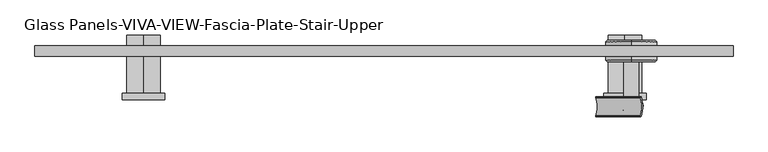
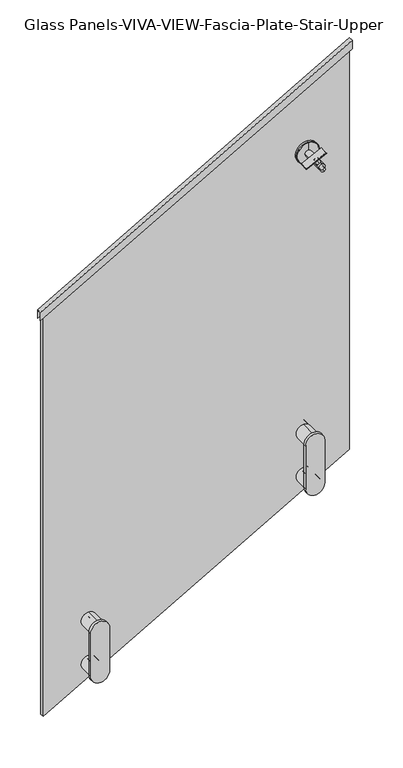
"""IFC4 building model written with IfcOpenShell, lengths in millimetres: railing geometry, Glass Panels-VIVA-VIEW-Fascia-Plate-Stair-Upper."""

import ifcopenshell
import ifcopenshell.guid

model = None  # the IFC model being written
_history = None  # IfcOwnerHistory: only IFC2X3 demands one
_inside = {}  # id of a spatial element -> (the spatial element, [elements in it])
_under = {}  # id of a project, library or spatial element -> (it, [spatial elements below it])
_declared = {}  # id of a project -> (the project, [libraries it declares])
_typed = {}  # id of a type object -> (the type object, [elements of that type])
_made_of = {}  # id of a material, layer set ... -> (it, [elements and type objects made of it])


def new_model(schema):
    """Start an empty IFC model of exactly this schema.

    Asked for "IFC4X3", IfcOpenShell would pick the latest addendum, in which some entities
    have other attributes; the version numbers below select the first issue.
    IFC2X3 requires an IfcOwnerHistory on every rooted entity: one is made here for all.
    """
    global model, _history
    if schema == "IFC4X3":
        model = ifcopenshell.file(schema_version=(4, 3, 0, 0))
    else:
        model = ifcopenshell.file(schema=schema)
    _inside.clear()
    _under.clear()
    _declared.clear()
    _typed.clear()
    _made_of.clear()
    _history = None
    if model.schema == "IFC2X3":
        org = make("IfcOrganization", Name="unknown")
        user = make(
            "IfcPersonAndOrganization",
            ThePerson=make("IfcPerson", FamilyName="unknown"),
            TheOrganization=org,
        )
        app = make(
            "IfcApplication",
            ApplicationDeveloper=org,
            Version="unknown",
            ApplicationFullName="unknown",
            ApplicationIdentifier="unknown",
        )
        _history = make(
            "IfcOwnerHistory",
            OwningUser=user,
            OwningApplication=app,
            ChangeAction="ADDED",
            CreationDate=0,
        )
    return model


def make(cls, **values):
    """One entity of the class cls with the attributes given. An attribute that is None is left unset."""
    return model.create_entity(
        cls, **{name: value for name, value in values.items() if value is not None}
    )


def rooted(cls, **values):
    """An entity with a GlobalId (a new one), such as an element, a storey or a relation."""
    return make(cls, GlobalId=ifcopenshell.guid.new(), OwnerHistory=_history, **values)


def si_unit(unit_type, name, prefix=None):
    """IfcSIUnit, for example si_unit("LENGTHUNIT", "METRE", prefix="MILLI")."""
    return make("IfcSIUnit", UnitType=unit_type, Prefix=prefix, Name=name)


def assignment(units):
    """IfcUnitAssignment: the units of a project."""
    return None if units is None else make("IfcUnitAssignment", Units=units)


def point(xyz):
    """IfcCartesianPoint."""
    return None if xyz is None else make("IfcCartesianPoint", Coordinates=xyz)


def direction(xyz):
    """IfcDirection."""
    return None if xyz is None else make("IfcDirection", DirectionRatios=xyz)


def frame(location, z_axis=None, x_axis=None):
    """IfcAxis2Placement3D, a coordinate frame: its origin and axes. An axis left out is left unset."""
    return make(
        "IfcAxis2Placement3D",
        Location=point(location),
        Axis=direction(z_axis),
        RefDirection=direction(x_axis),
    )


def frame_2d(location, x_axis=None):
    """IfcAxis2Placement2D, a coordinate frame in the plane: its origin and x axis."""
    return make(
        "IfcAxis2Placement2D", Location=point(location), RefDirection=direction(x_axis)
    )


def origin():
    """The frame at (0, 0, 0) with its axes left unset."""
    return frame((0.0, 0.0, 0.0))


def place(relative_to, where):
    """IfcLocalPlacement: puts the frame where relative to a parent placement (None: the world)."""
    return make(
        "IfcLocalPlacement", PlacementRelTo=relative_to, RelativePlacement=where
    )


def context(
    kind, dimensions, precision=None, world=None, true_north=None, identifier=None
):
    """IfcGeometricRepresentationContext, for example the 3D "Model" context."""
    return make(
        "IfcGeometricRepresentationContext",
        ContextIdentifier=identifier,
        ContextType=kind,
        CoordinateSpaceDimension=dimensions,
        Precision=precision,
        WorldCoordinateSystem=world,
        TrueNorth=true_north,
    )


def project(units=None, contexts=None):
    """IfcProject with its units and contexts."""
    return rooted(
        "IfcProject",
        Name="project",
        RepresentationContexts=contexts,
        UnitsInContext=assignment(units),
    )


def spatial(cls, under=None, at=None, **own):
    """A site, building, storey or space (cls), placed at a placement, below another one or the project."""
    s = rooted(cls, ObjectPlacement=at, **own)
    if under is not None:
        _under.setdefault(under.id(), (under, []))[1].append(s)
    return s


def polyline(points):
    """IfcPolyline through the points."""
    return make("IfcPolyline", Points=[point(p) for p in points])


def circle_curve(where, radius):
    """IfcCircle in the frame where."""
    return make("IfcCircle", Position=where, Radius=radius)


def trimmed(basis, trim1, trim2, sense, master):
    """IfcTrimmedCurve: the piece of a basis curve between two trims."""
    return make(
        "IfcTrimmedCurve",
        BasisCurve=basis,
        Trim1=trim1,
        Trim2=trim2,
        SenseAgreement=sense,
        MasterRepresentation=master,
    )


def segment(curve, same_sense, transition):
    """IfcCompositeCurveSegment."""
    return make(
        "IfcCompositeCurveSegment",
        Transition=transition,
        SameSense=same_sense,
        ParentCurve=curve,
    )


def composite_curve(segments, self_intersect=None):
    """IfcCompositeCurve: segments joined end to end."""
    return make("IfcCompositeCurve", Segments=segments, SelfIntersect=self_intersect)


def outline(outer, holes=None, kind="AREA"):
    """IfcArbitraryClosedProfileDef: a profile drawn as a closed curve; with holes, ...WithVoids."""
    if holes is None:
        return make("IfcArbitraryClosedProfileDef", ProfileType=kind, OuterCurve=outer)
    return make(
        "IfcArbitraryProfileDefWithVoids",
        ProfileType=kind,
        OuterCurve=outer,
        InnerCurves=holes,
    )


def extrude(swept, where, along, depth):
    """IfcExtrudedAreaSolid: the profile swept, set in the frame where, extruded along a direction by depth."""
    return make(
        "IfcExtrudedAreaSolid",
        SweptArea=swept,
        Position=where,
        ExtrudedDirection=direction(along),
        Depth=depth,
    )


def faces_of(points, faces, orient=None, outer=None):
    """IfcFace entities. A face is a list of loops; a loop is a list of indices into points, from 0.

    orient and outer hold one flag for each loop. By default every Orientation is true, the
    first loop of a face is its IfcFaceOuterBound and the others are IfcFaceBound.
    """
    made = []
    for i, loops in enumerate(faces):
        bounds = []
        for j, loop in enumerate(loops):
            is_outer = j == 0 if outer is None else outer[i][j]
            bounds.append(
                make(
                    "IfcFaceOuterBound" if is_outer else "IfcFaceBound",
                    Bound=make("IfcPolyLoop", Polygon=[points[k] for k in loop]),
                    Orientation=True if orient is None else orient[i][j],
                )
            )
        made.append(make("IfcFace", Bounds=bounds))
    return made


def faceted_brep(points, faces, orient=None, outer=None, voids=None):
    """IfcFacetedBrep: a solid bounded by flat faces; with voids (closed shells), ...WithVoids."""
    shared = [point(p) for p in points]
    hull = make("IfcClosedShell", CfsFaces=faces_of(shared, faces, orient, outer))
    if voids is None:
        return make("IfcFacetedBrep", Outer=hull)
    return make(
        "IfcFacetedBrepWithVoids",
        Outer=hull,
        Voids=[
            make(cls, CfsFaces=faces_of(shared, fs, o, b)) for cls, fs, o, b in voids
        ],
    )


def shape(context_of_items, identifier, shape_type, items):
    """IfcShapeRepresentation: the items that make up one representation, for example the "Body"."""
    return make(
        "IfcShapeRepresentation",
        ContextOfItems=context_of_items,
        RepresentationIdentifier=identifier,
        RepresentationType=shape_type,
        Items=items,
    )


def source(mapping_origin, context_of_items, identifier, shape_type, items):
    """IfcRepresentationMap: a shape defined once, which mapped items show again and again."""
    return make(
        "IfcRepresentationMap",
        MappingOrigin=mapping_origin,
        MappedRepresentation=shape(context_of_items, identifier, shape_type, items),
    )


def transform(
    local_origin,
    x_axis=None,
    y_axis=None,
    z_axis=None,
    scale=None,
    scale2=None,
    scale3=None,
    uniform=True,
):
    """IfcCartesianTransformationOperator3D, or its non-uniform kind. x_axis, y_axis, z_axis: its Axis1, 2, 3."""
    if uniform:
        return make(
            "IfcCartesianTransformationOperator3D",
            Axis1=direction(x_axis),
            Axis2=direction(y_axis),
            LocalOrigin=point(local_origin),
            Scale=scale,
            Axis3=direction(z_axis),
        )
    return make(
        "IfcCartesianTransformationOperator3DnonUniform",
        Axis1=direction(x_axis),
        Axis2=direction(y_axis),
        LocalOrigin=point(local_origin),
        Scale=scale,
        Axis3=direction(z_axis),
        Scale2=scale2,
        Scale3=scale3,
    )


def mapped(mapping_source, mapping_target):
    """IfcMappedItem: shows the shape of a source again, moved by a transform."""
    return make(
        "IfcMappedItem", MappingSource=mapping_source, MappingTarget=mapping_target
    )


def made_of(thing, what):
    """Note that an element or type object is made of a material, layer set ...; save() writes the relation."""
    if what is not None:
        _made_of.setdefault(what.id(), (what, []))[1].append(thing)
    return thing


def element(
    cls,
    number,
    at=None,
    inside=None,
    cuts=None,
    type_object=None,
    material=None,
    context=None,
    identifier="Body",
    shape_type=None,
    held_by="IfcProductDefinitionShape",
    body=None,
    shapes=None,
    **own,
):
    """One element of the class cls, such as IfcWall. Its Tag is "e" and its number.

    at: its placement. inside: the storey or other place that contains it. cuts: it is an
    opening in that element (IfcRelVoidsElement). A single representation is given by context,
    identifier, shape_type and body (its items); several are given by shapes. held_by: the class
    of the entity that holds the representations. save() writes the other relations.
    """
    e = rooted(cls, Tag="e%d" % number, ObjectPlacement=at, **own)
    if body is not None:
        shapes = [shape(context, identifier, shape_type, body)]
    if shapes is not None:
        e.Representation = make(held_by, Representations=shapes)
    if inside is not None:
        _inside.setdefault(inside.id(), (inside, []))[1].append(e)
    if cuts is not None:
        rooted(
            "IfcRelVoidsElement", RelatingBuildingElement=cuts, RelatedOpeningElement=e
        )
    if type_object is not None:
        _typed.setdefault(type_object.id(), (type_object, []))[1].append(e)
    return made_of(e, material)


def aggregate(whole, parts):
    """IfcRelAggregates: a whole, such as a stair, and the parts it consists of."""
    return rooted("IfcRelAggregates", RelatingObject=whole, RelatedObjects=parts)


def save(model, path):
    """Write the relations noted so far, then the file.

    IfcRelAggregates (storeys below a building ...), IfcRelContainedInSpatialStructure (elements
    in a storey), IfcRelDefinesByType, IfcRelAssociatesMaterial and IfcRelDeclares: one each for
    every whole, place, type object, material and project.
    """
    for whole, parts in _under.values():
        aggregate(whole, parts)
    for where, things in _inside.values():
        rooted(
            "IfcRelContainedInSpatialStructure",
            RelatedElements=things,
            RelatingStructure=where,
        )
    for kind, things in _typed.values():
        rooted("IfcRelDefinesByType", RelatedObjects=things, RelatingType=kind)
    for what, things in _made_of.values():
        rooted("IfcRelAssociatesMaterial", RelatedObjects=things, RelatingMaterial=what)
    for by, libraries in _declared.values():
        rooted("IfcRelDeclares", RelatingContext=by, RelatedDefinitions=libraries)
    model.write(path)


def plane_surface(at):
    """IfcPlane: the flat surface through the origin of the frame at, square to its z axis."""
    return make("IfcPlane", Position=at)


def cylinder_surface(at, radius):
    """IfcCylindricalSurface: all points at the distance radius from the z axis of the frame at."""
    return make("IfcCylindricalSurface", Position=at, Radius=radius)


def revolved_surface(curve, axis_point, axis_direction):
    """IfcSurfaceOfRevolution: the curve turned about the line through axis_point along axis_direction."""
    return make(
        "IfcSurfaceOfRevolution",
        SweptCurve=make("IfcArbitraryOpenProfileDef", ProfileType="CURVE", Curve=curve),
        AxisPosition=make("IfcAxis1Placement", Location=point(axis_point), Axis=direction(axis_direction)),
    )


def advanced_brep(points, edges, surfaces, faces):
    """IfcAdvancedBrep: a solid bounded by faces that lie on surfaces and meet in shared edges.

    An edge is (start, end): straight between two places in points (the first is 0);
    or (start, end, curve); or (start, end, curve, False) where it runs against its curve.
    A face is (place in surfaces, loops), or (place, loops, False) where it looks against
    its surface's normal. A loop lists edges by number (the first is 1), with a minus sign
    where the edge is run from its end to its start. The first loop is the outer one.
    """
    corners = [point(p) for p in points]
    vertices = [make("IfcVertexPoint", VertexGeometry=c) for c in corners]
    made = []
    for start, end, *more in edges:
        made.append(
            make(
                "IfcEdgeCurve",
                EdgeStart=vertices[start],
                EdgeEnd=vertices[end],
                EdgeGeometry=more[0] if more else make("IfcPolyline", Points=[corners[start], corners[end]]),
                SameSense=more[1] if len(more) > 1 else True,
            )
        )
    hull = []
    for where, loops, *sense in faces:
        bounds = []
        for j, loop in enumerate(loops):
            ring = [make("IfcOrientedEdge", EdgeElement=made[abs(k) - 1], Orientation=k > 0) for k in loop]
            bounds.append(
                make(
                    "IfcFaceOuterBound" if j == 0 else "IfcFaceBound",
                    Bound=make("IfcEdgeLoop", EdgeList=ring),
                    Orientation=True,
                )
            )
        hull.append(make("IfcAdvancedFace", Bounds=bounds, FaceSurface=surfaces[where], SameSense=sense[0] if sense else True))
    return make("IfcAdvancedBrep", Outer=make("IfcClosedShell", CfsFaces=hull))


def glass_panels_viva_view_fascia_plate_stair_upper_780a1570(model_context):
    return source(origin(), model_context, "Body", "SolidModel", [
        faceted_brep([(36710.9578933, -10291.1594585, 3542.8464286), (36710.9578933, -10275.2844585, 3542.8464286), (36710.9578933, -10275.2844585, 3513.5919505), (36710.9578933, -10276.8719585, 3513.5919505), (36710.9578933, -10276.8719585, 3541.0180237), (36710.9578933, -10289.5719585, 3541.0180237), (36710.9578933, -10289.5719585, 3513.5919505), (36710.9578933, -10291.1594585, 3513.5919505), (37756.3266433, -10291.1594585, 4140.2), (37756.3266433, -10291.1594585, 4110.9455219), (37756.3266433, -10289.5719585, 4110.9455219), (37756.3266433, -10289.5719585, 4138.3715951), (37756.3266433, -10276.8719585, 4138.3715951), (37756.3266433, -10276.8719585, 4110.9455219), (37756.3266433, -10275.2844585, 4110.9455219), (37756.3266433, -10275.2844585, 4140.2)], [[[0, 1, 2, 3, 4, 5, 6, 7]], [[8, 9, 10, 11, 12, 13, 14, 15]], [[1, 0, 8, 15]], [[2, 1, 15, 14]], [[3, 2, 14, 13]], [[4, 3, 13, 12]], [[5, 4, 12, 11]], [[6, 5, 11, 10]], [[7, 6, 10, 9]], [[0, 7, 9, 8]]]),
        advanced_brep(
        [(36873.6628149, -10259.4097524, 2222.2661821), (36873.6628149, -10259.4097524, 2247.6661821), (36873.6628149, -10259.4097524, 2273.0661821), (36873.6628149, -10276.8722524, 2222.2661821), (36873.6628149, -10276.8722524, 2273.0661821), (36873.6628149, -10276.8722524, 2241.9511821), (36873.6628149, -10276.8722524, 2253.3811821), (36873.6628149, -10289.5722524, 2241.9511821), (36873.6628149, -10289.5722524, 2253.3811821), (36873.6628149, -10289.5722524, 2222.2661821), (36873.6628149, -10289.5722524, 2273.0661821), (36873.6628149, -10346.7221054, 2222.2661821), (36873.6628149, -10346.7221054, 2273.0661821), (36873.6628149, -10346.7221054, 2247.6661821)],
        [
            (0, 1),
            (1, 2),
            (2, 0, circle_curve(frame((36873.6628149, -10259.4097524, 2247.6661821), z_axis=(0.0, 1.0, 0.0), x_axis=(0.0, 0.0, 1.0)), 25.4)),
            (0, 2, circle_curve(frame((36873.6628149, -10259.4097524, 2247.6661821), z_axis=(0.0, 1.0, 0.0), x_axis=(0.0, 0.0, 1.0)), 25.4)),
            (3, 0),
            (2, 4),
            (4, 3, circle_curve(frame((36873.6628149, -10276.8722524, 2247.6661821), z_axis=(0.0, 1.0, 0.0), x_axis=(0.0, 0.0, 1.0)), 25.4)),
            (3, 4, circle_curve(frame((36873.6628149, -10276.8722524, 2247.6661821), z_axis=(0.0, 1.0, 0.0), x_axis=(0.0, 0.0, 1.0)), 25.4)),
            (5, 3),
            (4, 6),
            (6, 5, circle_curve(frame((36873.6628149, -10276.8722524, 2247.6661821), z_axis=(0.0, 1.0, 0.0), x_axis=(0.0, 0.0, 1.0)), 5.715)),
            (5, 6, circle_curve(frame((36873.6628149, -10276.8722524, 2247.6661821), z_axis=(0.0, 1.0, 0.0), x_axis=(0.0, 0.0, 1.0)), 5.715)),
            (7, 5),
            (6, 8),
            (8, 7, circle_curve(frame((36873.6628149, -10289.5722524, 2247.6661821), z_axis=(0.0, 1.0, 0.0), x_axis=(0.0, 0.0, 1.0)), 5.715)),
            (7, 8, circle_curve(frame((36873.6628149, -10289.5722524, 2247.6661821), z_axis=(0.0, 1.0, 0.0), x_axis=(0.0, 0.0, 1.0)), 5.715)),
            (9, 7),
            (8, 10),
            (10, 9, circle_curve(frame((36873.6628149, -10289.5722524, 2247.6661821), z_axis=(0.0, 1.0, 0.0), x_axis=(0.0, 0.0, 1.0)), 25.4)),
            (9, 10, circle_curve(frame((36873.6628149, -10289.5722524, 2247.6661821), z_axis=(0.0, 1.0, 0.0), x_axis=(0.0, 0.0, 1.0)), 25.4)),
            (11, 9),
            (10, 12),
            (12, 11, circle_curve(frame((36873.6628149, -10346.7221054, 2247.6661821), z_axis=(0.0, 1.0, 0.0), x_axis=(0.0, 0.0, 1.0)), 25.4)),
            (11, 12, circle_curve(frame((36873.6628149, -10346.7221054, 2247.6661821), z_axis=(0.0, 1.0, 0.0), x_axis=(0.0, 0.0, 1.0)), 25.4)),
            (13, 11),
            (12, 13),
        ],
        [
            plane_surface(frame((36873.6628149, -10259.4097524, 2247.6661821), z_axis=(0.0, 1.0, 0.0), x_axis=(0.0, 0.0, 1.0))),
            cylinder_surface(frame((36873.6628149, -10191.1471054, 2247.6661821), z_axis=(0.0, -1.0, 0.0), x_axis=(0.0, 0.0, 1.0)), 25.4),
            plane_surface(frame((36873.6628149, -10276.8722524, 2247.6661821), z_axis=(0.0, -1.0, 0.0), x_axis=(0.0, 0.0, 1.0))),
            cylinder_surface(frame((36873.6628149, -10191.1471054, 2247.6661821), z_axis=(0.0, -1.0, 0.0), x_axis=(0.0, 0.0, 1.0)), 5.715),
            plane_surface(frame((36873.6628149, -10289.5722524, 2247.6661821), z_axis=(0.0, 1.0, 0.0), x_axis=(0.0, 0.0, 1.0))),
            plane_surface(frame((36873.6628149, -10346.7221054, 2247.6661821), z_axis=(0.0, -1.0, 0.0), x_axis=(0.0, 0.0, 1.0))),
        ],
        [
            (0, [[1, 2, 3]]),
            (0, [[-2, -1, 4]]),
            (1, [[5, -3, 6, 7]]),
            (1, [[-6, -4, -5, 8]]),
            (2, [[9, -7, 10, 11]]),
            (2, [[-10, -8, -9, 12]]),
            (3, [[13, -11, 14, 15]]),
            (3, [[-14, -12, -13, 16]]),
            (4, [[17, -15, 18, 19]]),
            (4, [[-18, -16, -17, 20]]),
            (1, [[21, -19, 22, 23]]),
            (1, [[-22, -20, -21, 24]]),
            (5, [[25, -23, 26]]),
            (5, [[-26, -24, -25]]),
        ],
    ),
        advanced_brep(
        [(36873.6628149, -10276.8722524, 2394.3511821), (36873.6628149, -10276.8722524, 2374.6661821), (36873.6628149, -10276.8722524, 2425.4661821), (36873.6628149, -10276.8722524, 2405.7811821), (36873.6628149, -10289.5722524, 2394.3511821), (36873.6628149, -10289.5722524, 2405.7811821), (36873.6628149, -10289.5722524, 2374.6661821), (36873.6628149, -10289.5722524, 2425.4661821), (36873.6628149, -10346.7221054, 2374.6661821), (36873.6628149, -10346.7221054, 2425.4661821), (36873.6628149, -10346.7221054, 2400.0661821), (36873.6628149, -10259.4097524, 2374.6661821), (36873.6628149, -10259.4097524, 2400.0661821), (36873.6628149, -10259.4097524, 2425.4661821)],
        [
            (0, 1),
            (1, 2, circle_curve(frame((36873.6628149, -10276.8722524, 2400.0661821), z_axis=(0.0, -1.0, 0.0), x_axis=(0.0, 0.0, 1.0)), 25.4)),
            (2, 3),
            (3, 0, circle_curve(frame((36873.6628149, -10276.8722524, 2400.0661821), z_axis=(0.0, 1.0, 0.0), x_axis=(0.0, 0.0, 1.0)), 5.715)),
            (2, 1, circle_curve(frame((36873.6628149, -10276.8722524, 2400.0661821), z_axis=(0.0, -1.0, 0.0), x_axis=(0.0, 0.0, 1.0)), 25.4)),
            (0, 3, circle_curve(frame((36873.6628149, -10276.8722524, 2400.0661821), z_axis=(0.0, 1.0, 0.0), x_axis=(0.0, 0.0, 1.0)), 5.715)),
            (4, 0),
            (3, 5),
            (5, 4, circle_curve(frame((36873.6628149, -10289.5722524, 2400.0661821), z_axis=(0.0, 1.0, 0.0), x_axis=(0.0, 0.0, 1.0)), 5.715)),
            (4, 5, circle_curve(frame((36873.6628149, -10289.5722524, 2400.0661821), z_axis=(0.0, 1.0, 0.0), x_axis=(0.0, 0.0, 1.0)), 5.715)),
            (6, 4),
            (5, 7),
            (7, 6, circle_curve(frame((36873.6628149, -10289.5722524, 2400.0661821), z_axis=(0.0, 1.0, 0.0), x_axis=(0.0, 0.0, 1.0)), 25.4)),
            (6, 7, circle_curve(frame((36873.6628149, -10289.5722524, 2400.0661821), z_axis=(0.0, 1.0, 0.0), x_axis=(0.0, 0.0, 1.0)), 25.4)),
            (8, 6),
            (7, 9),
            (9, 8, circle_curve(frame((36873.6628149, -10346.7221054, 2400.0661821), z_axis=(0.0, 1.0, 0.0), x_axis=(0.0, 0.0, 1.0)), 25.4)),
            (8, 9, circle_curve(frame((36873.6628149, -10346.7221054, 2400.0661821), z_axis=(0.0, 1.0, 0.0), x_axis=(0.0, 0.0, 1.0)), 25.4)),
            (10, 8),
            (9, 10),
            (11, 12),
            (12, 13),
            (13, 11, circle_curve(frame((36873.6628149, -10259.4097524, 2400.0661821), z_axis=(0.0, 1.0, 0.0), x_axis=(0.0, 0.0, 1.0)), 25.4)),
            (11, 13, circle_curve(frame((36873.6628149, -10259.4097524, 2400.0661821), z_axis=(0.0, 1.0, 0.0), x_axis=(0.0, 0.0, 1.0)), 25.4)),
            (1, 11),
            (13, 2),
        ],
        [
            plane_surface(frame((36873.6628149, -10276.8722524, 2400.0661821), z_axis=(0.0, -1.0, 0.0), x_axis=(0.0, 0.0, 1.0))),
            cylinder_surface(frame((36873.6628149, -10191.1471054, 2400.0661821), z_axis=(0.0, -1.0, 0.0), x_axis=(0.0, 0.0, 1.0)), 5.715),
            plane_surface(frame((36873.6628149, -10289.5722524, 2400.0661821), z_axis=(0.0, 1.0, 0.0), x_axis=(0.0, 0.0, 1.0))),
            cylinder_surface(frame((36873.6628149, -10191.1471054, 2400.0661821), z_axis=(0.0, -1.0, 0.0), x_axis=(0.0, 0.0, 1.0)), 25.4),
            plane_surface(frame((36873.6628149, -10346.7221054, 2400.0661821), z_axis=(0.0, -1.0, 0.0), x_axis=(0.0, 0.0, 1.0))),
            plane_surface(frame((36873.6628149, -10259.4097524, 2400.0661821), z_axis=(0.0, 1.0, 0.0), x_axis=(0.0, 0.0, 1.0))),
        ],
        [
            (0, [[1, 2, 3, 4]]),
            (0, [[-3, 5, -1, 6]]),
            (1, [[7, -4, 8, 9]]),
            (1, [[-8, -6, -7, 10]]),
            (2, [[11, -9, 12, 13]]),
            (2, [[-12, -10, -11, 14]]),
            (3, [[15, -13, 16, 17]]),
            (3, [[-16, -14, -15, 18]]),
            (4, [[19, -17, 20]]),
            (4, [[-20, -18, -19]]),
            (5, [[21, 22, 23]]),
            (5, [[-22, -21, 24]]),
            (3, [[25, -23, 26, -2]]),
            (3, [[-26, -24, -25, -5]]),
        ],
    ),
        extrude(outline(composite_curve([segment(polyline([(2400.0661821, 36841.9128149), (2247.6661821, 36841.9128149)]), True, "CONTINUOUS"), segment(trimmed(circle_curve(frame_2d((2247.6661821, 36873.6628149)), 31.75), [point((2247.6661821, 36841.9128149))], [point((2247.6661821, 36905.4128149))], False, "CARTESIAN"), True, "CONTINUOUS"), segment(polyline([(2247.6661821, 36905.4128149), (2400.0661821, 36905.4128149)]), True, "CONTINUOUS"), segment(trimmed(circle_curve(frame_2d((2400.0661821, 36873.6628149)), 31.75), [point((2400.0661821, 36905.4128149))], [point((2400.0661821, 36841.9128149))], False, "CARTESIAN"), True, "CONTINUOUS")], self_intersect=False)), frame((0.0, -10356.2471054, 0.0), z_axis=(0.0, 1.0, 0.0), x_axis=(0.0, 0.0, 1.0)), (0.0, 0.0, 1.0), 9.525),
        advanced_brep(
        [(37594.3878149, -10259.4097524, 2634.1090392), (37594.3878149, -10259.4097524, 2659.5090392), (37594.3878149, -10259.4097524, 2684.9090392), (37594.3878149, -10276.8722524, 2634.1090392), (37594.3878149, -10276.8722524, 2684.9090392), (37594.3878149, -10276.8722524, 2653.7940392), (37594.3878149, -10276.8722524, 2665.2240392), (37594.3878149, -10289.5722524, 2653.7940392), (37594.3878149, -10289.5722524, 2665.2240392), (37594.3878149, -10289.5722524, 2634.1090392), (37594.3878149, -10289.5722524, 2684.9090392), (37594.3878149, -10346.7221054, 2634.1090392), (37594.3878149, -10346.7221054, 2684.9090392), (37594.3878149, -10346.7221054, 2659.5090392)],
        [
            (0, 1),
            (1, 2),
            (2, 0, circle_curve(frame((37594.3878149, -10259.4097524, 2659.5090392), z_axis=(0.0, 1.0, 0.0), x_axis=(0.0, 0.0, 1.0)), 25.4)),
            (0, 2, circle_curve(frame((37594.3878149, -10259.4097524, 2659.5090392), z_axis=(0.0, 1.0, 0.0), x_axis=(0.0, 0.0, 1.0)), 25.4)),
            (3, 0),
            (2, 4),
            (4, 3, circle_curve(frame((37594.3878149, -10276.8722524, 2659.5090392), z_axis=(0.0, 1.0, 0.0), x_axis=(0.0, 0.0, 1.0)), 25.4)),
            (3, 4, circle_curve(frame((37594.3878149, -10276.8722524, 2659.5090392), z_axis=(0.0, 1.0, 0.0), x_axis=(0.0, 0.0, 1.0)), 25.4)),
            (5, 3),
            (4, 6),
            (6, 5, circle_curve(frame((37594.3878149, -10276.8722524, 2659.5090392), z_axis=(0.0, 1.0, 0.0), x_axis=(0.0, 0.0, 1.0)), 5.715)),
            (5, 6, circle_curve(frame((37594.3878149, -10276.8722524, 2659.5090392), z_axis=(0.0, 1.0, 0.0), x_axis=(0.0, 0.0, 1.0)), 5.715)),
            (7, 5),
            (6, 8),
            (8, 7, circle_curve(frame((37594.3878149, -10289.5722524, 2659.5090392), z_axis=(0.0, 1.0, 0.0), x_axis=(0.0, 0.0, 1.0)), 5.715)),
            (7, 8, circle_curve(frame((37594.3878149, -10289.5722524, 2659.5090392), z_axis=(0.0, 1.0, 0.0), x_axis=(0.0, 0.0, 1.0)), 5.715)),
            (9, 7),
            (8, 10),
            (10, 9, circle_curve(frame((37594.3878149, -10289.5722524, 2659.5090392), z_axis=(0.0, 1.0, 0.0), x_axis=(0.0, 0.0, 1.0)), 25.4)),
            (9, 10, circle_curve(frame((37594.3878149, -10289.5722524, 2659.5090392), z_axis=(0.0, 1.0, 0.0), x_axis=(0.0, 0.0, 1.0)), 25.4)),
            (11, 9),
            (10, 12),
            (12, 11, circle_curve(frame((37594.3878149, -10346.7221054, 2659.5090392), z_axis=(0.0, 1.0, 0.0), x_axis=(0.0, 0.0, 1.0)), 25.4)),
            (11, 12, circle_curve(frame((37594.3878149, -10346.7221054, 2659.5090392), z_axis=(0.0, 1.0, 0.0), x_axis=(0.0, 0.0, 1.0)), 25.4)),
            (13, 11),
            (12, 13),
        ],
        [
            plane_surface(frame((37594.3878149, -10259.4097524, 2659.5090392), z_axis=(0.0, 1.0, 0.0), x_axis=(0.0, 0.0, 1.0))),
            cylinder_surface(frame((37594.3878149, -10191.1471054, 2659.5090392), z_axis=(0.0, -1.0, 0.0), x_axis=(0.0, 0.0, 1.0)), 25.4),
            plane_surface(frame((37594.3878149, -10276.8722524, 2659.5090392), z_axis=(0.0, -1.0, 0.0), x_axis=(0.0, 0.0, 1.0))),
            cylinder_surface(frame((37594.3878149, -10191.1471054, 2659.5090392), z_axis=(0.0, -1.0, 0.0), x_axis=(0.0, 0.0, 1.0)), 5.715),
            plane_surface(frame((37594.3878149, -10289.5722524, 2659.5090392), z_axis=(0.0, 1.0, 0.0), x_axis=(0.0, 0.0, 1.0))),
            plane_surface(frame((37594.3878149, -10346.7221054, 2659.5090392), z_axis=(0.0, -1.0, 0.0), x_axis=(0.0, 0.0, 1.0))),
        ],
        [
            (0, [[1, 2, 3]]),
            (0, [[-2, -1, 4]]),
            (1, [[5, -3, 6, 7]]),
            (1, [[-6, -4, -5, 8]]),
            (2, [[9, -7, 10, 11]]),
            (2, [[-10, -8, -9, 12]]),
            (3, [[13, -11, 14, 15]]),
            (3, [[-14, -12, -13, 16]]),
            (4, [[17, -15, 18, 19]]),
            (4, [[-18, -16, -17, 20]]),
            (1, [[21, -19, 22, 23]]),
            (1, [[-22, -20, -21, 24]]),
            (5, [[25, -23, 26]]),
            (5, [[-26, -24, -25]]),
        ],
    ),
        advanced_brep(
        [(37594.3878149, -10276.8722524, 2806.1940392), (37594.3878149, -10276.8722524, 2786.5090392), (37594.3878149, -10276.8722524, 2837.3090392), (37594.3878149, -10276.8722524, 2817.6240392), (37594.3878149, -10289.5722524, 2806.1940392), (37594.3878149, -10289.5722524, 2817.6240392), (37594.3878149, -10289.5722524, 2786.5090392), (37594.3878149, -10289.5722524, 2837.3090392), (37594.3878149, -10346.7221054, 2786.5090392), (37594.3878149, -10346.7221054, 2837.3090392), (37594.3878149, -10346.7221054, 2811.9090392), (37594.3878149, -10259.4097524, 2786.5090392), (37594.3878149, -10259.4097524, 2811.9090392), (37594.3878149, -10259.4097524, 2837.3090392)],
        [
            (0, 1),
            (1, 2, circle_curve(frame((37594.3878149, -10276.8722524, 2811.9090392), z_axis=(0.0, -1.0, 0.0), x_axis=(0.0, 0.0, 1.0)), 25.4)),
            (2, 3),
            (3, 0, circle_curve(frame((37594.3878149, -10276.8722524, 2811.9090392), z_axis=(0.0, 1.0, 0.0), x_axis=(0.0, 0.0, 1.0)), 5.715)),
            (2, 1, circle_curve(frame((37594.3878149, -10276.8722524, 2811.9090392), z_axis=(0.0, -1.0, 0.0), x_axis=(0.0, 0.0, 1.0)), 25.4)),
            (0, 3, circle_curve(frame((37594.3878149, -10276.8722524, 2811.9090392), z_axis=(0.0, 1.0, 0.0), x_axis=(0.0, 0.0, 1.0)), 5.715)),
            (4, 0),
            (3, 5),
            (5, 4, circle_curve(frame((37594.3878149, -10289.5722524, 2811.9090392), z_axis=(0.0, 1.0, 0.0), x_axis=(0.0, 0.0, 1.0)), 5.715)),
            (4, 5, circle_curve(frame((37594.3878149, -10289.5722524, 2811.9090392), z_axis=(0.0, 1.0, 0.0), x_axis=(0.0, 0.0, 1.0)), 5.715)),
            (6, 4),
            (5, 7),
            (7, 6, circle_curve(frame((37594.3878149, -10289.5722524, 2811.9090392), z_axis=(0.0, 1.0, 0.0), x_axis=(0.0, 0.0, 1.0)), 25.4)),
            (6, 7, circle_curve(frame((37594.3878149, -10289.5722524, 2811.9090392), z_axis=(0.0, 1.0, 0.0), x_axis=(0.0, 0.0, 1.0)), 25.4)),
            (8, 6),
            (7, 9),
            (9, 8, circle_curve(frame((37594.3878149, -10346.7221054, 2811.9090392), z_axis=(0.0, 1.0, 0.0), x_axis=(0.0, 0.0, 1.0)), 25.4)),
            (8, 9, circle_curve(frame((37594.3878149, -10346.7221054, 2811.9090392), z_axis=(0.0, 1.0, 0.0), x_axis=(0.0, 0.0, 1.0)), 25.4)),
            (10, 8),
            (9, 10),
            (11, 12),
            (12, 13),
            (13, 11, circle_curve(frame((37594.3878149, -10259.4097524, 2811.9090392), z_axis=(0.0, 1.0, 0.0), x_axis=(0.0, 0.0, 1.0)), 25.4)),
            (11, 13, circle_curve(frame((37594.3878149, -10259.4097524, 2811.9090392), z_axis=(0.0, 1.0, 0.0), x_axis=(0.0, 0.0, 1.0)), 25.4)),
            (1, 11),
            (13, 2),
        ],
        [
            plane_surface(frame((37594.3878149, -10276.8722524, 2811.9090392), z_axis=(0.0, -1.0, 0.0), x_axis=(0.0, 0.0, 1.0))),
            cylinder_surface(frame((37594.3878149, -10191.1471054, 2811.9090392), z_axis=(0.0, -1.0, 0.0), x_axis=(0.0, 0.0, 1.0)), 5.715),
            plane_surface(frame((37594.3878149, -10289.5722524, 2811.9090392), z_axis=(0.0, 1.0, 0.0), x_axis=(0.0, 0.0, 1.0))),
            cylinder_surface(frame((37594.3878149, -10191.1471054, 2811.9090392), z_axis=(0.0, -1.0, 0.0), x_axis=(0.0, 0.0, 1.0)), 25.4),
            plane_surface(frame((37594.3878149, -10346.7221054, 2811.9090392), z_axis=(0.0, -1.0, 0.0), x_axis=(0.0, 0.0, 1.0))),
            plane_surface(frame((37594.3878149, -10259.4097524, 2811.9090392), z_axis=(0.0, 1.0, 0.0), x_axis=(0.0, 0.0, 1.0))),
        ],
        [
            (0, [[1, 2, 3, 4]]),
            (0, [[-3, 5, -1, 6]]),
            (1, [[7, -4, 8, 9]]),
            (1, [[-8, -6, -7, 10]]),
            (2, [[11, -9, 12, 13]]),
            (2, [[-12, -10, -11, 14]]),
            (3, [[15, -13, 16, 17]]),
            (3, [[-16, -14, -15, 18]]),
            (4, [[19, -17, 20]]),
            (4, [[-20, -18, -19]]),
            (5, [[21, 22, 23]]),
            (5, [[-22, -21, 24]]),
            (3, [[25, -23, 26, -2]]),
            (3, [[-26, -24, -25, -5]]),
        ],
    ),
        extrude(outline(composite_curve([segment(polyline([(2811.9090392, 37562.6378149), (2659.5090392, 37562.6378149)]), True, "CONTINUOUS"), segment(trimmed(circle_curve(frame_2d((2659.5090392, 37594.3878149)), 31.75), [point((2659.5090392, 37562.6378149))], [point((2659.5090392, 37626.1378149))], False, "CARTESIAN"), True, "CONTINUOUS"), segment(polyline([(2659.5090392, 37626.1378149), (2811.9090392, 37626.1378149)]), True, "CONTINUOUS"), segment(trimmed(circle_curve(frame_2d((2811.9090392, 37594.3878149)), 31.75), [point((2811.9090392, 37626.1378149))], [point((2811.9090392, 37562.6378149))], False, "CARTESIAN"), True, "CONTINUOUS")], self_intersect=False)), frame((0.0, -10356.2471054, 0.0), z_axis=(0.0, 1.0, 0.0), x_axis=(0.0, 0.0, 1.0)), (0.0, 0.0, 1.0), 9.525),
        extrude(outline(polyline([(4132.9242304, 37746.7878149), (3546.9099447, 36721.2628149), (2109.7804678, 36721.2628149), (2695.7947535, 37746.7878149), (4132.9242304, 37746.7878149)])), frame((0.0, -10289.5719585, 0.0), z_axis=(0.0, 1.0, 0.0), x_axis=(0.0, 0.0, 1.0)), (0.0, 0.0, 1.0), 12.7),
        extrude(outline(composite_curve([segment(trimmed(circle_curve(frame_2d((0.0, 7.0)), 7.0), [point((0.0, 14.0))], [point((0.0, 0.0))], False, "CARTESIAN"), True, "CONTINUOUS"), segment(trimmed(circle_curve(frame_2d((0.0, 7.0)), 7.0), [point((0.0, 0.0))], [point((0.0, 14.0))], False, "CARTESIAN"), True, "CONTINUOUS")], self_intersect=False)), frame((37615.347567, -10358.4418194, 3776.2378704), z_axis=(-0.4481147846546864, 0.0, 0.8939760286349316), x_axis=(-0.8939760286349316, 0.0, -0.4481147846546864)), (0.0, 0.0, 1.0), 52.8378352),
        extrude(outline(composite_curve([segment(polyline([(5.2466063, -13.9247916), (4.2292192, -14.9511812)]), True, "CONTINUOUS"), segment(trimmed(circle_curve(frame_2d((3.1638974, -13.8952033)), 1.5), [point((4.2292192, -14.9511812))], [point((2.0329756, -14.8806048))], False, "CARTESIAN"), True, "CONTINUOUS"), segment(trimmed(circle_curve(frame_2d((18.6575251, -0.3952033)), 22.05), [point((2.0329756, -14.8806048))], [point((2.0329756, 14.0901981))], False, "CARTESIAN"), True, "CONTINUOUS"), segment(trimmed(circle_curve(frame_2d((3.1638974, 13.1047967)), 1.5), [point((2.0329756, 14.0901981))], [point((4.2292192, 14.1607745))], False, "CARTESIAN"), True, "CONTINUOUS"), segment(polyline([(4.2292192, 14.1607745), (5.2466063, 13.1343849)]), True, "CONTINUOUS"), segment(trimmed(circle_curve(frame_2d((18.6575251, -0.3952033)), 19.05), [point((5.2466063, 13.1343849))], [point((5.2466063, -13.9247916))], True, "CARTESIAN"), True, "CONTINUOUS")], self_intersect=False)), frame((37552.693589, -10367.1690518, 3807.8629743), z_axis=(0.8953503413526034, 0.0, 0.44536251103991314), x_axis=(-0.44536251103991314, 0.0, 0.8953503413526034)), (0.0, 0.0, 1.0), 74.5229187),
        extrude(outline(composite_curve([segment(trimmed(circle_curve(frame_2d((3799.1142857, 37603.9266433)), 11.0132813), [point((3799.1142857, 37614.9399245))], [point((3799.1142857, 37592.913362))], False, "CARTESIAN"), True, "CONTINUOUS"), segment(trimmed(circle_curve(frame_2d((3799.1142857, 37603.9266433)), 11.0132813), [point((3799.1142857, 37592.913362))], [point((3799.1142857, 37614.9399245))], False, "CARTESIAN"), True, "CONTINUOUS")], self_intersect=False)), frame((0.0, -10378.4719585, 0.0), z_axis=(0.0, 1.0, 0.0), x_axis=(0.0, 0.0, 1.0)), (0.0, 0.0, 1.0), 79.2757812),
        advanced_brep(
        [(37603.9266433, -10267.2477397, 3799.1142857), (37603.9266433, -10267.2477397, 3762.9986607), (37603.9266433, -10267.2477397, 3835.2299107), (37603.9266433, -10299.1961772, 3762.9986607), (37603.9266433, -10299.1961772, 3799.1142857), (37603.9266433, -10299.1961772, 3835.2299107), (37603.9266433, -10297.2118022, 3761.0142857), (37603.9266433, -10297.2118022, 3837.2142857), (37603.9266433, -10289.5719585, 3761.0142857), (37603.9266433, -10289.5719585, 3837.2142857), (37603.9266433, -10289.5719585, 3786.4142857), (37603.9266433, -10289.5719585, 3811.8142857), (37603.9266433, -10276.8719585, 3786.4142857), (37603.9266433, -10276.8719585, 3811.8142857), (37603.9266433, -10276.8719585, 3761.0142857), (37603.9266433, -10276.8719585, 3837.2142857), (37603.9266433, -10269.2321147, 3761.0142857), (37603.9266433, -10269.2321147, 3837.2142857)],
        [
            (0, 1),
            (1, 2, circle_curve(frame((37603.9266433, -10267.2477397, 3799.1142857), z_axis=(0.0, 1.0, 0.0), x_axis=(0.0, 0.0, 1.0)), 36.115625)),
            (2, 0),
            (2, 1, circle_curve(frame((37603.9266433, -10267.2477397, 3799.1142857), z_axis=(0.0, 1.0, 0.0), x_axis=(0.0, 0.0, 1.0)), 36.115625)),
            (3, 4),
            (4, 5),
            (5, 3, circle_curve(frame((37603.9266433, -10299.1961772, 3799.1142857), z_axis=(0.0, -1.0, 0.0), x_axis=(0.0, 0.0, 1.0)), 36.115625)),
            (3, 5, circle_curve(frame((37603.9266433, -10299.1961772, 3799.1142857), z_axis=(0.0, -1.0, 0.0), x_axis=(0.0, 0.0, 1.0)), 36.115625)),
            (6, 3),
            (5, 7),
            (7, 6, circle_curve(frame((37603.9266433, -10297.2118022, 3799.1142857), z_axis=(0.0, -1.0, 0.0), x_axis=(0.0, 0.0, 1.0)), 38.1)),
            (6, 7, circle_curve(frame((37603.9266433, -10297.2118022, 3799.1142857), z_axis=(0.0, -1.0, 0.0), x_axis=(0.0, 0.0, 1.0)), 38.1)),
            (8, 6),
            (7, 9),
            (9, 8, circle_curve(frame((37603.9266433, -10289.5719585, 3799.1142857), z_axis=(0.0, -1.0, 0.0), x_axis=(0.0, 0.0, 1.0)), 38.1)),
            (8, 9, circle_curve(frame((37603.9266433, -10289.5719585, 3799.1142857), z_axis=(0.0, -1.0, 0.0), x_axis=(0.0, 0.0, 1.0)), 38.1)),
            (10, 8),
            (9, 11),
            (11, 10, circle_curve(frame((37603.9266433, -10289.5719585, 3799.1142857), z_axis=(0.0, -1.0, 0.0), x_axis=(0.0, 0.0, 1.0)), 12.7)),
            (10, 11, circle_curve(frame((37603.9266433, -10289.5719585, 3799.1142857), z_axis=(0.0, -1.0, 0.0), x_axis=(0.0, 0.0, 1.0)), 12.7)),
            (12, 10),
            (11, 13),
            (13, 12, circle_curve(frame((37603.9266433, -10276.8719585, 3799.1142857), z_axis=(0.0, -1.0, 0.0), x_axis=(0.0, 0.0, 1.0)), 12.7)),
            (12, 13, circle_curve(frame((37603.9266433, -10276.8719585, 3799.1142857), z_axis=(0.0, -1.0, 0.0), x_axis=(0.0, 0.0, 1.0)), 12.7)),
            (14, 12),
            (13, 15),
            (15, 14, circle_curve(frame((37603.9266433, -10276.8719585, 3799.1142857), z_axis=(0.0, -1.0, 0.0), x_axis=(0.0, 0.0, 1.0)), 38.1)),
            (14, 15, circle_curve(frame((37603.9266433, -10276.8719585, 3799.1142857), z_axis=(0.0, -1.0, 0.0), x_axis=(0.0, 0.0, 1.0)), 38.1)),
            (16, 14),
            (15, 17),
            (17, 16, circle_curve(frame((37603.9266433, -10269.2321147, 3799.1142857), z_axis=(0.0, -1.0, 0.0), x_axis=(0.0, 0.0, 1.0)), 38.1)),
            (16, 17, circle_curve(frame((37603.9266433, -10269.2321147, 3799.1142857), z_axis=(0.0, -1.0, 0.0), x_axis=(0.0, 0.0, 1.0)), 38.1)),
            (1, 16),
            (17, 2),
        ],
        [
            plane_surface(frame((37603.9266433, -10267.2477397, 3799.1142857), z_axis=(0.0, 1.0, 0.0), x_axis=(0.0, 0.0, 1.0))),
            plane_surface(frame((37603.9266433, -10299.1961772, 3799.1142857), z_axis=(0.0, -1.0, 0.0), x_axis=(0.0, 0.0, 1.0))),
            revolved_surface(polyline([(37603.9266433, -10299.1961772, 3835.2299107), (37603.9266433, -10297.2118022, 3837.2142857)]), (37603.9266433, -10231.1321147, 3799.1142857), (0.0, 1.0, 0.0)),
            cylinder_surface(frame((37603.9266433, -10231.1321147, 3799.1142857), z_axis=(0.0, 1.0, 0.0), x_axis=(0.0, 0.0, 1.0)), 38.1),
            plane_surface(frame((37603.9266433, -10289.5719585, 3799.1142857), z_axis=(0.0, 1.0, 0.0), x_axis=(0.0, 0.0, 1.0))),
            cylinder_surface(frame((37603.9266433, -10231.1321147, 3799.1142857), z_axis=(0.0, 1.0, 0.0), x_axis=(0.0, 0.0, 1.0)), 12.7),
            plane_surface(frame((37603.9266433, -10276.8719585, 3799.1142857), z_axis=(0.0, -1.0, 0.0), x_axis=(0.0, 0.0, 1.0))),
            revolved_surface(polyline([(37603.9266433, -10269.2321147, 3837.2142857), (37603.9266433, -10267.2477397, 3835.2299107)]), (37603.9266433, -10231.1321147, 3799.1142857), (0.0, 1.0, 0.0)),
        ],
        [
            (0, [[1, 2, 3]]),
            (0, [[-3, 4, -1]]),
            (1, [[5, 6, 7]]),
            (1, [[-6, -5, 8]]),
            (2, [[9, -7, 10, 11]]),
            (2, [[-10, -8, -9, 12]]),
            (3, [[13, -11, 14, 15]]),
            (3, [[-14, -12, -13, 16]]),
            (4, [[17, -15, 18, 19]]),
            (4, [[-18, -16, -17, 20]]),
            (5, [[21, -19, 22, 23]]),
            (5, [[-22, -20, -21, 24]]),
            (6, [[25, -23, 26, 27]]),
            (6, [[-26, -24, -25, 28]]),
            (3, [[29, -27, 30, 31]]),
            (3, [[-30, -28, -29, 32]]),
            (7, [[33, -31, 34, -2]]),
            (7, [[-34, -32, -33, -4]]),
        ],
    ),
    ])


if __name__ == "__main__":
    model = new_model("IFC4")
    model_context = context("Model", 3, world=origin())
    ifc_project = project(units=[si_unit("LENGTHUNIT", "METRE", prefix="MILLI")], contexts=[model_context])
    site = spatial("IfcSite", under=ifc_project)
    building = spatial("IfcBuilding", under=site)
    placement = place(None, origin())
    glass_panels_viva_view_fascia_plate_stair_upper_shape = glass_panels_viva_view_fascia_plate_stair_upper_780a1570(model_context)
    element("IfcRailing", 1, ObjectType="Glass Panels-VIVA-VIEW-Fascia-Plate-Stair-Upper", at=placement, inside=building, context=model_context, shape_type="MappedRepresentation", body=[
        mapped(glass_panels_viva_view_fascia_plate_stair_upper_shape, transform((0.0, 0.0, 0.0), x_axis=(1.0, 0.0, 0.0), y_axis=(0.0, 1.0, 0.0), z_axis=(0.0, 0.0, 1.0))),
    ])
    save(model, "model.ifc")
